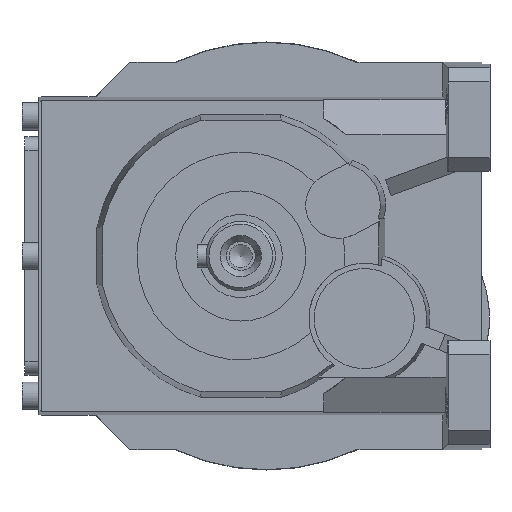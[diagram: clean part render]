
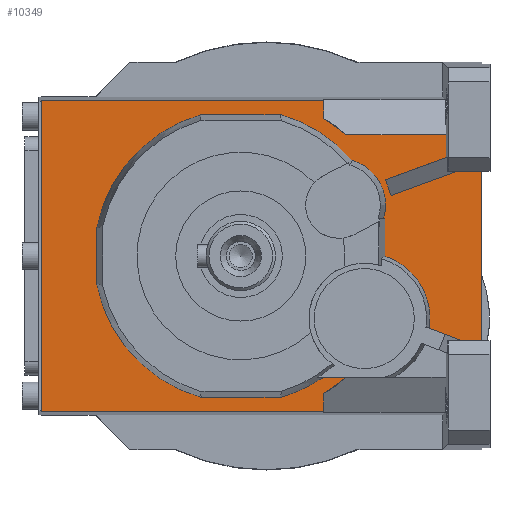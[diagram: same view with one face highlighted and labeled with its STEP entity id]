
A CAD part, left-side view. The second image highlights one B-rep face of the part: STEP entity #10349.
In plain terms, the highlighted planar face has unit normal (-1, 0, 0) as drawn and (1, 0, 0) by its records, which use the part's own axes.
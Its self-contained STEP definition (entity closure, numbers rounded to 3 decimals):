
#239=CIRCLE('',#10857,58.);
#240=CIRCLE('',#10858,58.);
#241=CIRCLE('',#10859,53.);
#242=CIRCLE('',#10860,53.);
#243=CIRCLE('',#10861,53.);
#244=CIRCLE('',#10862,53.);
#245=CIRCLE('',#10863,16.881);
#246=CIRCLE('',#10864,23.725);
#646=ORIENTED_EDGE('',*,*,#2602,.F.);
#647=ORIENTED_EDGE('',*,*,#2750,.F.);
#648=ORIENTED_EDGE('',*,*,#2751,.F.);
#649=ORIENTED_EDGE('',*,*,#2752,.T.);
#650=ORIENTED_EDGE('',*,*,#2753,.T.);
#651=ORIENTED_EDGE('',*,*,#2754,.F.);
#652=ORIENTED_EDGE('',*,*,#2755,.T.);
#653=ORIENTED_EDGE('',*,*,#2756,.F.);
#654=ORIENTED_EDGE('',*,*,#2757,.T.);
#655=ORIENTED_EDGE('',*,*,#2758,.F.);
#656=ORIENTED_EDGE('',*,*,#2759,.F.);
#657=ORIENTED_EDGE('',*,*,#2760,.F.);
#658=ORIENTED_EDGE('',*,*,#2761,.T.);
#659=ORIENTED_EDGE('',*,*,#2762,.F.);
#660=ORIENTED_EDGE('',*,*,#2763,.F.);
#661=ORIENTED_EDGE('',*,*,#2764,.F.);
#662=ORIENTED_EDGE('',*,*,#2765,.F.);
#663=ORIENTED_EDGE('',*,*,#2766,.T.);
#664=ORIENTED_EDGE('',*,*,#2767,.F.);
#665=ORIENTED_EDGE('',*,*,#2768,.T.);
#666=ORIENTED_EDGE('',*,*,#2769,.F.);
#667=ORIENTED_EDGE('',*,*,#2770,.T.);
#668=ORIENTED_EDGE('',*,*,#2771,.T.);
#669=ORIENTED_EDGE('',*,*,#2772,.F.);
#670=ORIENTED_EDGE('',*,*,#2773,.T.);
#671=ORIENTED_EDGE('',*,*,#2774,.T.);
#672=ORIENTED_EDGE('',*,*,#2589,.T.);
#673=ORIENTED_EDGE('',*,*,#2563,.T.);
#2563=EDGE_CURVE('',#3638,#3637,#4373,.T.);
#2589=EDGE_CURVE('',#3662,#3638,#4395,.T.);
#2602=EDGE_CURVE('',#3673,#3637,#4408,.T.);
#2750=EDGE_CURVE('',#3788,#3673,#4510,.T.);
#2751=EDGE_CURVE('',#3789,#3788,#4511,.T.);
#2752=EDGE_CURVE('',#3789,#3790,#4512,.T.);
#2753=EDGE_CURVE('',#3790,#3791,#4513,.T.);
#2754=EDGE_CURVE('',#3792,#3791,#4514,.T.);
#2755=EDGE_CURVE('',#3792,#3793,#239,.T.);
#2756=EDGE_CURVE('',#3794,#3793,#4515,.T.);
#2757=EDGE_CURVE('',#3794,#3795,#4516,.T.);
#2758=EDGE_CURVE('',#3796,#3795,#4517,.T.);
#2759=EDGE_CURVE('',#3797,#3796,#4518,.T.);
#2760=EDGE_CURVE('',#3798,#3797,#4519,.T.);
#2761=EDGE_CURVE('',#3798,#3799,#240,.T.);
#2762=EDGE_CURVE('',#3800,#3799,#4520,.T.);
#2763=EDGE_CURVE('',#3801,#3800,#241,.T.);
#2764=EDGE_CURVE('',#3802,#3801,#4521,.T.);
#2765=EDGE_CURVE('',#3803,#3802,#242,.T.);
#2766=EDGE_CURVE('',#3803,#3804,#4522,.T.);
#2767=EDGE_CURVE('',#3805,#3804,#243,.T.);
#2768=EDGE_CURVE('',#3805,#3806,#4523,.T.);
#2769=EDGE_CURVE('',#3807,#3806,#244,.T.);
#2770=EDGE_CURVE('',#3807,#3808,#245,.F.);
#2771=EDGE_CURVE('',#3808,#3809,#4524,.T.);
#2772=EDGE_CURVE('',#3810,#3809,#4525,.T.);
#2773=EDGE_CURVE('',#3810,#3811,#246,.F.);
#2774=EDGE_CURVE('',#3811,#3662,#4526,.T.);
#3637=VERTEX_POINT('',#13631);
#3638=VERTEX_POINT('',#13633);
#3662=VERTEX_POINT('',#13685);
#3673=VERTEX_POINT('',#13709);
#3788=VERTEX_POINT('',#14003);
#3789=VERTEX_POINT('',#14005);
#3790=VERTEX_POINT('',#14007);
#3791=VERTEX_POINT('',#14009);
#3792=VERTEX_POINT('',#14011);
#3793=VERTEX_POINT('',#14013);
#3794=VERTEX_POINT('',#14015);
#3795=VERTEX_POINT('',#14017);
#3796=VERTEX_POINT('',#14019);
#3797=VERTEX_POINT('',#14021);
#3798=VERTEX_POINT('',#14023);
#3799=VERTEX_POINT('',#14025);
#3800=VERTEX_POINT('',#14027);
#3801=VERTEX_POINT('',#14029);
#3802=VERTEX_POINT('',#14031);
#3803=VERTEX_POINT('',#14033);
#3804=VERTEX_POINT('',#14035);
#3805=VERTEX_POINT('',#14037);
#3806=VERTEX_POINT('',#14039);
#3807=VERTEX_POINT('',#14041);
#3808=VERTEX_POINT('',#14043);
#3809=VERTEX_POINT('',#14045);
#3810=VERTEX_POINT('',#14047);
#3811=VERTEX_POINT('',#14049);
#4373=LINE('',#13632,#5205);
#4395=LINE('',#13684,#5227);
#4408=LINE('',#13710,#5240);
#4510=LINE('',#14002,#5342);
#4511=LINE('',#14004,#5343);
#4512=LINE('',#14006,#5344);
#4513=LINE('',#14008,#5345);
#4514=LINE('',#14010,#5346);
#4515=LINE('',#14014,#5347);
#4516=LINE('',#14016,#5348);
#4517=LINE('',#14018,#5349);
#4518=LINE('',#14020,#5350);
#4519=LINE('',#14022,#5351);
#4520=LINE('',#14026,#5352);
#4521=LINE('',#14030,#5353);
#4522=LINE('',#14034,#5354);
#4523=LINE('',#14038,#5355);
#4524=LINE('',#14044,#5356);
#4525=LINE('',#14046,#5357);
#4526=LINE('',#14050,#5358);
#5205=VECTOR('',#11468,1000.);
#5227=VECTOR('',#11502,1000.);
#5240=VECTOR('',#11517,1000.);
#5342=VECTOR('',#11755,1000.);
#5343=VECTOR('',#11756,1000.);
#5344=VECTOR('',#11757,1000.);
#5345=VECTOR('',#11758,1000.);
#5346=VECTOR('',#11759,1000.);
#5347=VECTOR('',#11762,1000.);
#5348=VECTOR('',#11763,1000.);
#5349=VECTOR('',#11764,1000.);
#5350=VECTOR('',#11765,1000.);
#5351=VECTOR('',#11766,1000.);
#5352=VECTOR('',#11769,1000.);
#5353=VECTOR('',#11772,1000.);
#5354=VECTOR('',#11775,1000.);
#5355=VECTOR('',#11778,1000.);
#5356=VECTOR('',#11783,1000.);
#5357=VECTOR('',#11784,1000.);
#5358=VECTOR('',#11787,1000.);
#6048=EDGE_LOOP('',(#646,#647,#648,#649,#650,#651,#652,#653,#654,#655,#656,
#657,#658,#659,#660,#661,#662,#663,#664,#665,#666,#667,#668,#669,#670,#671,
#672,#673));
#6587=FACE_BOUND('',#6048,.T.);
#7115=PLANE('',#10856);
#10349=ADVANCED_FACE('',(#6587),#7115,.T.);
#10856=AXIS2_PLACEMENT_3D('',#14001,#11753,#11754);
#10857=AXIS2_PLACEMENT_3D('',#14012,#11760,#11761);
#10858=AXIS2_PLACEMENT_3D('',#14024,#11767,#11768);
#10859=AXIS2_PLACEMENT_3D('',#14028,#11770,#11771);
#10860=AXIS2_PLACEMENT_3D('',#14032,#11773,#11774);
#10861=AXIS2_PLACEMENT_3D('',#14036,#11776,#11777);
#10862=AXIS2_PLACEMENT_3D('',#14040,#11779,#11780);
#10863=AXIS2_PLACEMENT_3D('',#14042,#11781,#11782);
#10864=AXIS2_PLACEMENT_3D('',#14048,#11785,#11786);
#11468=DIRECTION('',(0.,0.,-1.));
#11502=DIRECTION('',(0.,-1.,0.));
#11517=DIRECTION('',(0.,-1.,0.));
#11753=DIRECTION('',(1.,0.,0.));
#11754=DIRECTION('',(0.,0.,-1.));
#11755=DIRECTION('',(0.,-0.94,-0.342));
#11756=DIRECTION('',(0.,-0.342,0.94));
#11757=DIRECTION('',(0.,-0.94,-0.342));
#11758=DIRECTION('',(0.,0.,-1.));
#11759=DIRECTION('',(0.,-1.,0.));
#11760=DIRECTION('',(1.,0.,0.));
#11761=DIRECTION('',(0.,0.,-1.));
#11762=DIRECTION('',(0.,0.,1.));
#11763=DIRECTION('',(0.,1.,0.));
#11764=DIRECTION('',(0.,0.,-1.));
#11765=DIRECTION('',(0.,1.,0.));
#11766=DIRECTION('',(0.,0.,1.));
#11767=DIRECTION('',(1.,0.,0.));
#11768=DIRECTION('',(0.,0.,-1.));
#11769=DIRECTION('',(0.,-1.,0.));
#11770=DIRECTION('',(1.,0.,0.));
#11771=DIRECTION('',(0.,0.,-1.));
#11772=DIRECTION('',(0.,-1.,0.));
#11773=DIRECTION('',(1.,0.,0.));
#11774=DIRECTION('',(0.,0.,-1.));
#11775=DIRECTION('',(0.,0.,-1.));
#11776=DIRECTION('',(1.,0.,0.));
#11777=DIRECTION('',(0.,0.,-1.));
#11778=DIRECTION('',(0.,-1.,0.));
#11779=DIRECTION('',(1.,0.,0.));
#11780=DIRECTION('',(0.,0.,-1.));
#11781=DIRECTION('',(1.,0.,0.));
#11782=DIRECTION('',(0.,0.,-1.));
#11783=DIRECTION('',(0.,-1.,0.));
#11784=DIRECTION('',(0.,0.,-1.));
#11785=DIRECTION('',(1.,0.,0.));
#11786=DIRECTION('',(0.,0.,-1.));
#11787=DIRECTION('',(0.,-0.934,0.358));
#13631=CARTESIAN_POINT('',(107.5,-87.,-30.65));
#13632=CARTESIAN_POINT('',(107.5,-87.,31.));
#13633=CARTESIAN_POINT('',(107.5,-87.,30.65));
#13684=CARTESIAN_POINT('',(107.5,-83.,30.65));
#13685=CARTESIAN_POINT('',(107.5,-79.846,30.65));
#13709=CARTESIAN_POINT('',(107.5,-78.363,-30.65));
#13710=CARTESIAN_POINT('',(107.5,-83.,-30.65));
#14001=CARTESIAN_POINT('',(107.5,-83.,56.147));
#14002=CARTESIAN_POINT('',(107.5,-54.288,-21.888));
#14003=CARTESIAN_POINT('',(107.5,-54.288,-21.888));
#14004=CARTESIAN_POINT('',(107.5,-52.236,-27.526));
#14005=CARTESIAN_POINT('',(107.5,-52.236,-27.526));
#14006=CARTESIAN_POINT('',(107.5,-52.236,-27.526));
#14007=CARTESIAN_POINT('',(107.5,-74.179,-35.513));
#14008=CARTESIAN_POINT('',(107.5,-74.179,56.147));
#14009=CARTESIAN_POINT('',(107.5,-74.179,-43.85));
#14010=CARTESIAN_POINT('',(107.5,-83.,-43.85));
#14011=CARTESIAN_POINT('',(107.5,-37.963,-43.85));
#14012=CARTESIAN_POINT('',(107.5,0.,0.));
#14013=CARTESIAN_POINT('',(107.5,-29.9,-49.699));
#14014=CARTESIAN_POINT('',(107.5,-29.9,56.147));
#14015=CARTESIAN_POINT('',(107.5,-29.9,-56.147));
#14016=CARTESIAN_POINT('',(107.5,-83.,-56.147));
#14017=CARTESIAN_POINT('',(107.5,72.,-56.147));
#14018=CARTESIAN_POINT('',(107.5,72.,56.147));
#14019=CARTESIAN_POINT('',(107.5,72.,56.147));
#14020=CARTESIAN_POINT('',(107.5,-83.,56.147));
#14021=CARTESIAN_POINT('',(107.5,-29.9,56.147));
#14022=CARTESIAN_POINT('',(107.5,-29.9,56.147));
#14023=CARTESIAN_POINT('',(107.5,-29.9,49.699));
#14024=CARTESIAN_POINT('',(107.5,0.,0.));
#14025=CARTESIAN_POINT('',(107.5,-37.963,43.85));
#14026=CARTESIAN_POINT('',(107.5,-26.,43.85));
#14027=CARTESIAN_POINT('',(107.5,-29.769,43.85));
#14028=CARTESIAN_POINT('',(107.5,0.,0.));
#14029=CARTESIAN_POINT('',(107.5,-14.223,51.056));
#14030=CARTESIAN_POINT('',(107.5,20.,51.056));
#14031=CARTESIAN_POINT('',(107.5,14.223,51.056));
#14032=CARTESIAN_POINT('',(107.5,0.,0.));
#14033=CARTESIAN_POINT('',(107.5,52.056,9.959));
#14034=CARTESIAN_POINT('',(107.5,52.056,20.));
#14035=CARTESIAN_POINT('',(107.5,52.056,-9.959));
#14036=CARTESIAN_POINT('',(107.5,0.,0.));
#14037=CARTESIAN_POINT('',(107.5,14.223,-51.056));
#14038=CARTESIAN_POINT('',(107.5,20.,-51.056));
#14039=CARTESIAN_POINT('',(107.5,-14.223,-51.056));
#14040=CARTESIAN_POINT('',(107.5,0.,0.));
#14041=CARTESIAN_POINT('',(107.5,-40.171,-34.573));
#14042=CARTESIAN_POINT('',(107.5,-35.4,-18.38));
#14043=CARTESIAN_POINT('',(107.5,-51.56,-13.5));
#14044=CARTESIAN_POINT('',(107.5,-83.,-13.5));
#14045=CARTESIAN_POINT('',(107.5,-52.056,-13.5));
#14046=CARTESIAN_POINT('',(107.5,-52.056,20.));
#14047=CARTESIAN_POINT('',(107.5,-52.056,0.077));
#14048=CARTESIAN_POINT('',(107.5,-44.6,22.6));
#14049=CARTESIAN_POINT('',(107.5,-68.061,26.126));
#14050=CARTESIAN_POINT('',(107.5,-61.616,23.652));
